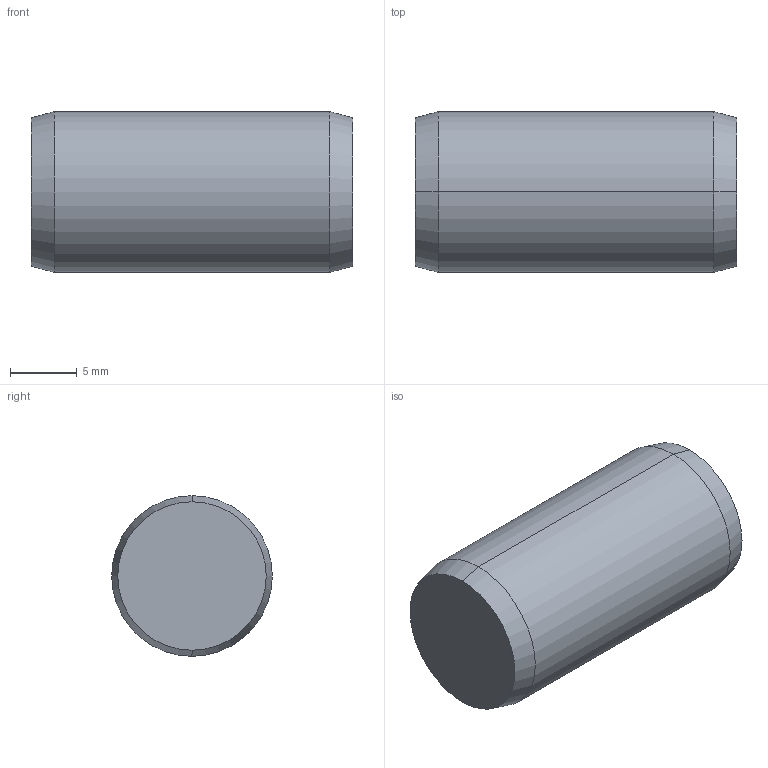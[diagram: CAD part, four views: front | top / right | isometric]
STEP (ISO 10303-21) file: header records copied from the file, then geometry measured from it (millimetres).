
FILE_DESCRIPTION (( 'STEP AP203' ), '1' );
FILE_NAME ('P1206.120-024.step', '2017-06-14T08:37:04', ( 'User' ), ( '' ), 'SwSTEP 2.0', 'SolidWorks 2009', '' );
FILE_SCHEMA (( 'CONFIG_CONTROL_DESIGN' ));
Length unit declared in the file: millimetre
Products named in the file (1): P1206.120-024
Bounding box: 24 x 12 x 12 mm (x, y, z)
Volume: 2685.9 mm3; surface area: 1097.4 mm2
Topology: 1 solids, 1 shells, 8 faces, 14 edges, 8 vertices
Faces by surface type: cone 4, cylinder 2, plane 2
Entity records: 271 total; most frequent: DIRECTION 40, CARTESIAN_POINT 31, ORIENTED_EDGE 28, AXIS2_PLACEMENT_3D 17, EDGE_CURVE 14, EDGE_LOOP 8, VERTEX_POINT 8, ADVANCED_FACE 8
